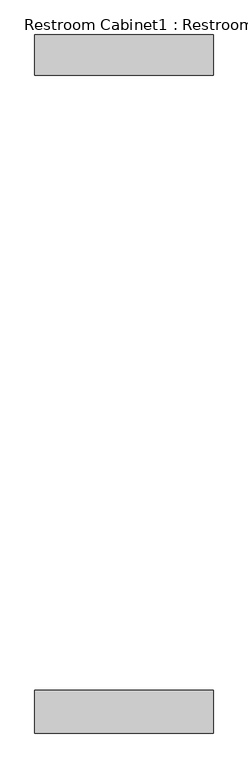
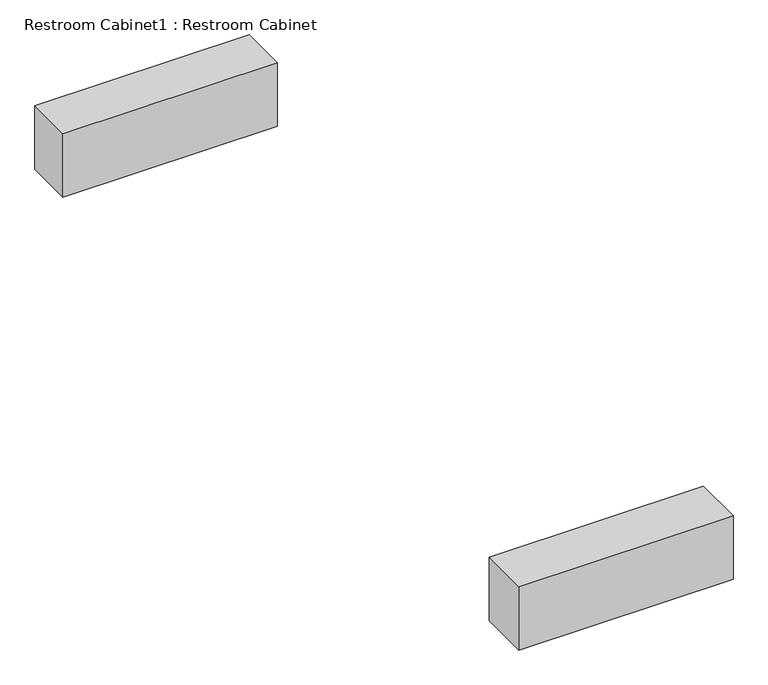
"""IFC4 building model written with IfcOpenShell, lengths in millimetres: furniture geometry, Restroom Cabinet1 : Restroom Cabinet."""

from ifc_helpers import new_model, si_unit, frame, origin, place, context, project, spatial, polyline, outline, extrude, source, transform, mapped, element, save


def restroom_cabinet1_restroom_cabinet_eb429586(model_context):
    return source(origin(), model_context, "Body", "SweptSolid", [
        extrude(outline(polyline([(10269.3177208, 4293.3677004), (10269.3177208, 3594.8677004), (7348.3177208, 3594.8677004), (7348.3177208, 4293.3677004), (10269.3177208, 4293.3677004)])), frame((0.0, 0.0, 3657.6), z_axis=(0.0, 0.0, 1.0), x_axis=(1.0, 0.0, 0.0)), (0.0, 0.0, 1.0), 914.4),
        extrude(outline(polyline([(7348.3177208, 14351.7677004), (7348.3177208, 15012.1677004), (10269.3177208, 15012.1677004), (10269.3177208, 14351.7677004), (7348.3177208, 14351.7677004)])), frame((0.0, 0.0, 3657.6), z_axis=(0.0, 0.0, 1.0), x_axis=(1.0, 0.0, 0.0)), (0.0, 0.0, 1.0), 914.4),
    ])


if __name__ == "__main__":
    model = new_model("IFC4")
    model_context = context("Model", 3, world=origin())
    ifc_project = project(units=[si_unit("LENGTHUNIT", "METRE", prefix="MILLI")], contexts=[model_context])
    site = spatial("IfcSite", under=ifc_project)
    building = spatial("IfcBuilding", under=site)
    placement = place(None, origin())
    restroom_cabinet1_restroom_cabinet_shape = restroom_cabinet1_restroom_cabinet_eb429586(model_context)
    element("IfcFurniture", 1, ObjectType="Restroom Cabinet1 : Restroom Cabinet", at=placement, inside=building, context=model_context, shape_type="MappedRepresentation", body=[
        mapped(restroom_cabinet1_restroom_cabinet_shape, transform((0.0, 0.0, 0.0), x_axis=(1.0, 0.0, 0.0), y_axis=(0.0, 1.0, 0.0), z_axis=(0.0, 0.0, 1.0))),
    ])
    save(model, "model.ifc")
